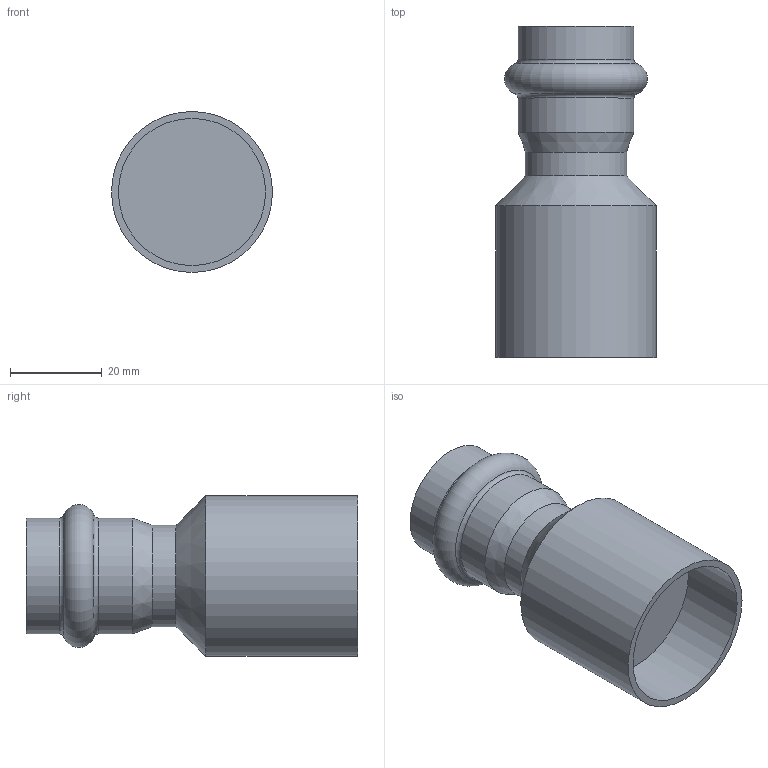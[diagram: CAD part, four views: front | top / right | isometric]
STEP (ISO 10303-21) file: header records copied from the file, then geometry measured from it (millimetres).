
FILE_DESCRIPTION(('STEP AP203'), '1');
FILE_NAME('VTi.905.I.003522', '', ('UNSPECIFIED'), ('UNSPECIFIED'), 'C3D Converter', 'C3D Toolkit', '');
FILE_SCHEMA(('CONFIG_CONTROL_DESIGN'));
Length unit declared in the file: millimetre
Bounding box: 35 x 72 x 35 mm (x, y, z)
Volume: 37761.4 mm3; surface area: 10766 mm2
Topology: 1 solids, 1 shells, 15 faces, 26 edges, 15 vertices
Faces by surface type: cylinder 6, plane 4, torus 3, cone 2
Full cylindrical faces by diameter (mm): 22 x1, 22.3 x1, 25.2 x2, 32 x1, 35 x1
Entity records: 344 total; most frequent: DIRECTION 62, CARTESIAN_POINT 46, AXIS2_PLACEMENT_3D 31, ORIENTED_EDGE 30, EDGE_LOOP 28, FACE_OUTER_BOUND 20, ADVANCED_FACE 15, EDGE_CURVE 15
